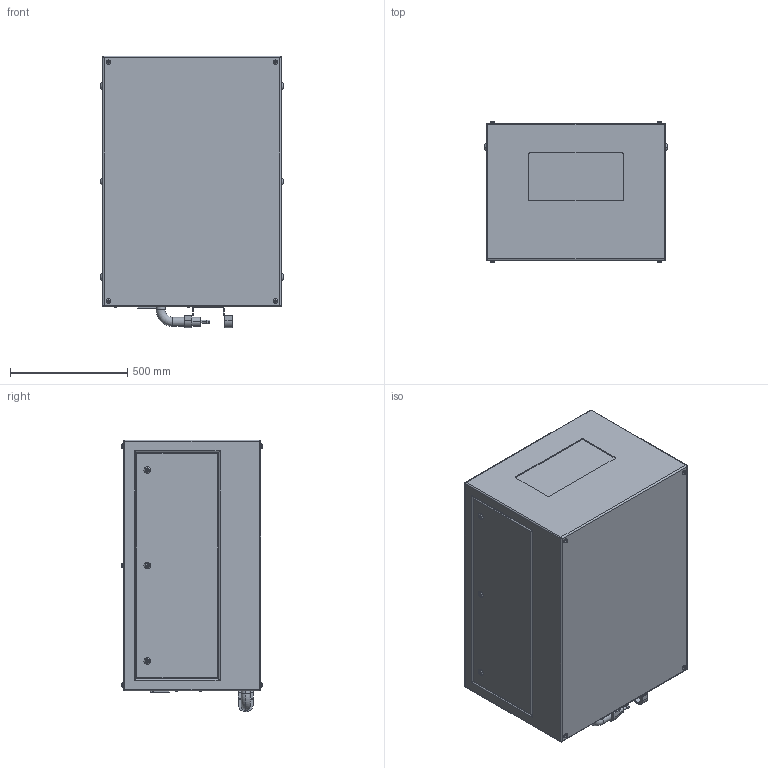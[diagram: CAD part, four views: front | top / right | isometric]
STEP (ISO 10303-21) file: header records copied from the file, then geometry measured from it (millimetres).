
FILE_DESCRIPTION (( 'STEP AP214' ), '1' );
FILE_NAME ('Oasis 59.150.L R02.STEP', '2022-08-27T16:01:08', ( '' ), ( '' ), 'SwSTEP 2.0', 'SolidWorks 2020', '' );
FILE_SCHEMA (( 'AUTOMOTIVE_DESIGN' ));
Length unit declared in the file: inch
Products named in the file (1): Oasis 59.150.L R02
Bounding box: 774.7 x 601.47 x 1155.7 mm (x, y, z)
Volume: 474349215.7 mm3; surface area: 4114801.5 mm2
Topology: 2 solids, 8 shells, 495 faces, 1129 edges, 714 vertices
Faces by surface type: plane 271, cylinder 170, torus 46, bspline 8
Entity records: 18928 total; most frequent: CARTESIAN_POINT 2851, DIRECTION 2459, ORIENTED_EDGE 2242, EDGE_CURVE 1121, AXIS2_PLACEMENT_3D 882, VERTEX_POINT 714, VECTOR 695, LINE 695
